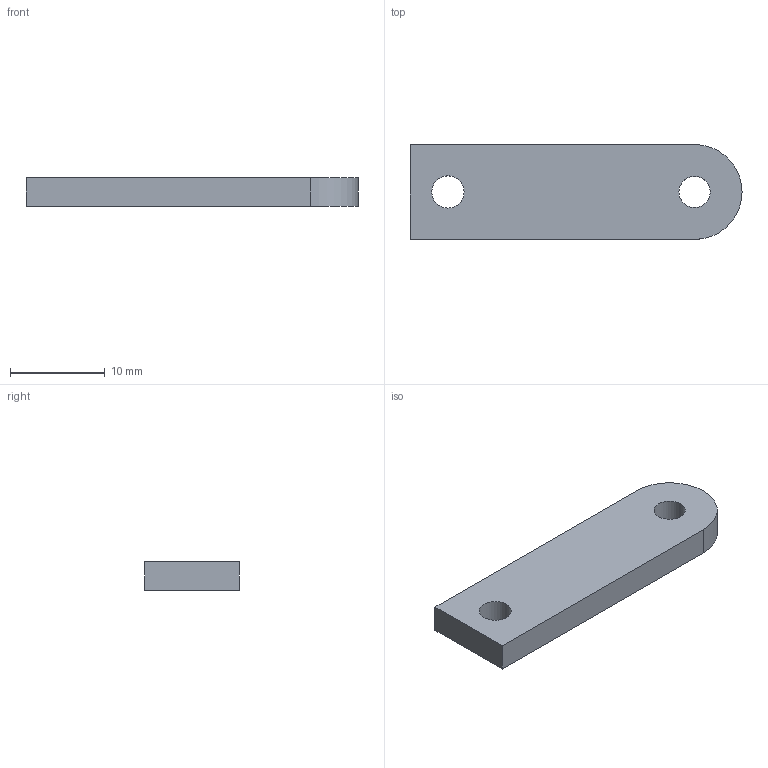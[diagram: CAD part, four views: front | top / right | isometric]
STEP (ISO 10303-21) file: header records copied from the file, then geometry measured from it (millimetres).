
FILE_DESCRIPTION(('Open CASCADE Model'),'2;1');
FILE_NAME('F08-FOOT','2026-11-15T22:32:29',('Author'),('Open CASCADE'), 'Open CASCADE STEP processor 8.0','build123d','Unknown');
FILE_SCHEMA(('AUTOMOTIVE_DESIGN { 1 0 10303 214 1 1 1 1 }'));
Length unit declared in the file: millimetre
Products named in the file (1): F08-FOOT
Bounding box: 35 x 10 x 3 mm (x, y, z)
Volume: 964.9 mm3; surface area: 963.5 mm2
Topology: 1 solids, 1 shells, 8 faces, 18 edges, 12 vertices
Faces by surface type: plane 5, cylinder 3
Full cylindrical faces by diameter (mm): 3.3 x1, 3.4 x1
Entity records: 481 total; most frequent: CARTESIAN_POINT 83, DIRECTION 75, LINE 40, VECTOR 40, ORIENTED_EDGE 36, PCURVE 36, DEFINITIONAL_REPRESENTATION 36, EDGE_CURVE 18
